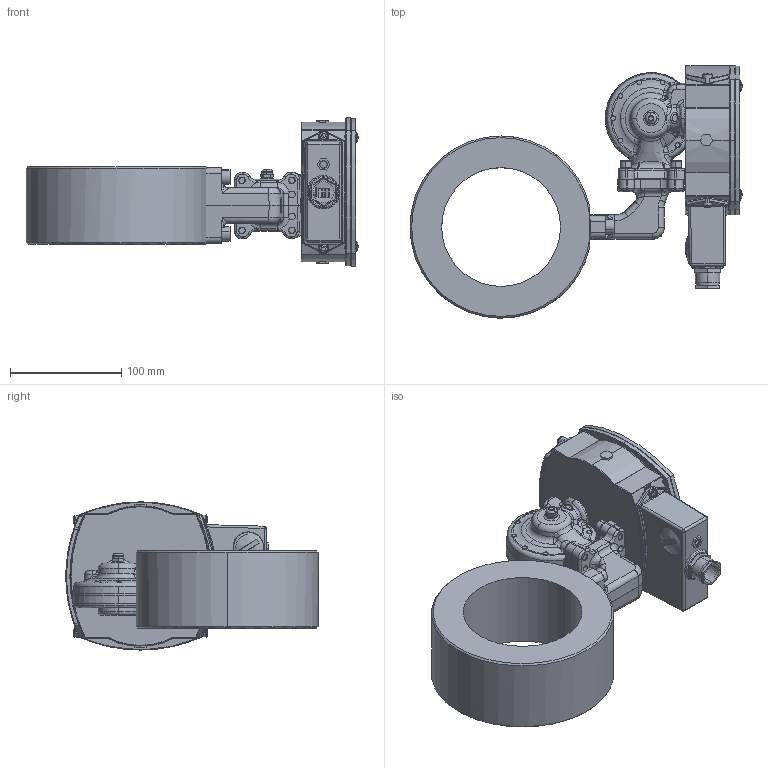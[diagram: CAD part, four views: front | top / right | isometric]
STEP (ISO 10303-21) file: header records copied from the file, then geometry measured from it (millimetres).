
FILE_DESCRIPTION (( 'STEP AP214' ), '1' );
FILE_NAME ('S FA100.STEP', '2016-09-21T07:12:54', ( 'User' ), ( 'HP' ), 'SwSTEP 2.0', 'SolidWorks 2016', '' );
FILE_SCHEMA (( 'AUTOMOTIVE_DESIGN' ));
Length unit declared in the file: millimetre
Products named in the file (35): ID_10; membranhus br; ID_1_4_4; M5 membranskruvar_1; ID_1_4_3; skruv_membranhus_1; ID_1_1_2; fj_X_E4derbricka till membranhus BR_1; ID_9; MC6S M6x22_1; ID_1_4_2; Lock kontrollerad HMAB ELETTA 20160908_1; ID_7_2; ID_6_1; Membranhus kontrollerad HMAB ELETTA 20160908_1; ID_5_2; ID_4_3; S2_25_internal_2_1; ID_3_3; kupolmutter_1; ID_2_4; m_X_E4ssingsmembran_1; ID_1_4; S hus; ID_1_4_8; S FA100; ID_14; ID_13; FA100 anslutningsror; ID_12; fa hals; ID_1_1; ID_2_2; ID_1_4_5; ID_1_2
Assembly tree (54 placements, depth 5):
  S FA100
    S hus
      ID_1_1
        ID_1_4
        ID_2_4
        ID_3_3
        ID_4_3
        ID_5_2
        ID_6_1  x4
        ID_7_2  x4
        ID_1_4_2
        ID_1_1_2
          ID_9  x2
        ID_1_4_3
        ID_1_4_4
        ID_10
        ID_1_4_5
      ID_12  x2
      ID_13
      ID_14
      ID_1_4_8
    membranhus br
      S2_25_internal_2_1
        m_X_E4ssingsmembran_1
        kupolmutter_1
      Membranhus kontrollerad HMAB ELETTA 20160908_1
      Lock kontrollerad HMAB ELETTA 20160908_1
      MC6S M6x22_1  x4
      M5 membranskruvar_1  x9
        fj_X_E4derbricka till membranhus BR_1
        skruv_membranhus_1
    fa hals
      ID_1_2
      ID_2_2  x2
    FA100 anslutningsror
Bounding box: 299 x 227.21 x 133.42 mm (x, y, z)
Volume: 1335543.5 mm3; surface area: 332063.3 mm2
Topology: 56 solids, 56 shells, 2415 faces, 5937 edges, 3684 vertices
Faces by surface type: plane 862, cylinder 687, bspline 585, cone 207, torus 67, sphere 7
Entity records: 101069 total; most frequent: CARTESIAN_POINT 58774, ORIENTED_EDGE 9340, DIRECTION 7188, EDGE_CURVE 4670, VERTEX_POINT 2917, AXIS2_PLACEMENT_3D 2681, EDGE_LOOP 2107, ADVANCED_FACE 1892
